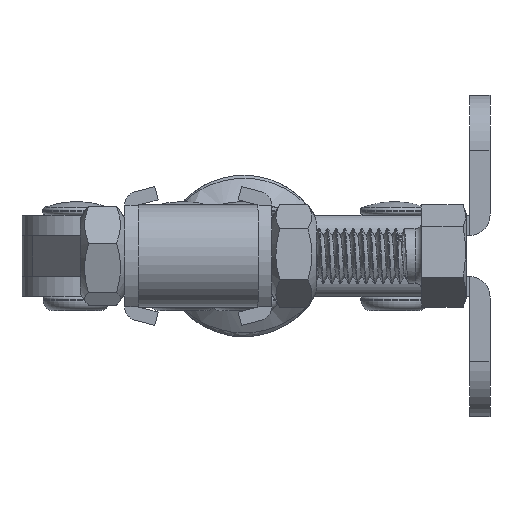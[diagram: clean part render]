
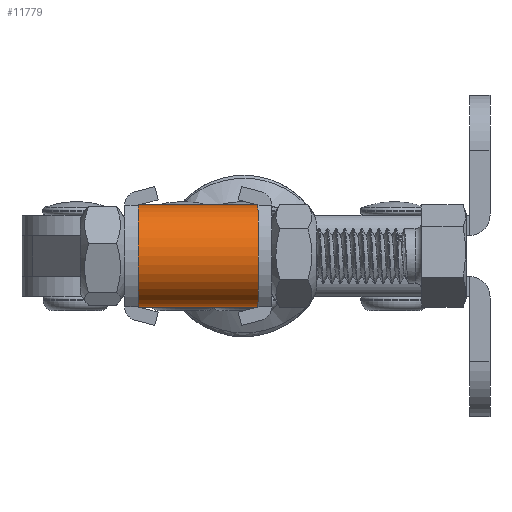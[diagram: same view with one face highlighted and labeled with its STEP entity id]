
A CAD part, left-side view. The second image highlights one B-rep face of the part: STEP entity #11779.
In plain terms, the highlighted cylindrical face has radius 7.5 mm (diameter 15 mm), a partial arc.
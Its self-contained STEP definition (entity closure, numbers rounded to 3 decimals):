
#1011=CYLINDRICAL_SURFACE('',#12833,7.5);
#1343=CIRCLE('',#12834,7.5);
#1344=CIRCLE('',#12835,7.5);
#1654=FACE_OUTER_BOUND('',#2344,.T.);
#2344=EDGE_LOOP('',(#9384,#9385,#9386,#9387));
#3103=LINE('',#42307,#4068);
#3178=LINE('',#43814,#4143);
#4068=VECTOR('',#14439,1000.);
#4143=VECTOR('',#14524,1000.);
#5177=VERTEX_POINT('',#42304);
#5178=VERTEX_POINT('',#42306);
#5363=VERTEX_POINT('',#43810);
#5364=VERTEX_POINT('',#43812);
#6629=EDGE_CURVE('',#5178,#5177,#3103,.T.);
#6819=EDGE_CURVE('',#5178,#5363,#1343,.T.);
#6820=EDGE_CURVE('',#5177,#5364,#1344,.T.);
#6821=EDGE_CURVE('',#5363,#5364,#3178,.T.);
#9384=ORIENTED_EDGE('',*,*,#6819,.F.);
#9385=ORIENTED_EDGE('',*,*,#6629,.T.);
#9386=ORIENTED_EDGE('',*,*,#6820,.T.);
#9387=ORIENTED_EDGE('',*,*,#6821,.F.);
#11779=ADVANCED_FACE('',(#1654),#1011,.T.);
#12833=AXIS2_PLACEMENT_3D('',#43809,#14518,#14519);
#12834=AXIS2_PLACEMENT_3D('',#43811,#14520,#14521);
#12835=AXIS2_PLACEMENT_3D('',#43813,#14522,#14523);
#14439=DIRECTION('',(0.,-1.,0.));
#14518=DIRECTION('center_axis',(0.,-1.,0.));
#14519=DIRECTION('ref_axis',(0.,0.,-1.));
#14520=DIRECTION('center_axis',(0.,1.,0.));
#14521=DIRECTION('ref_axis',(1.,0.,0.));
#14522=DIRECTION('center_axis',(0.,1.,0.));
#14523=DIRECTION('ref_axis',(0.,0.,1.));
#14524=DIRECTION('',(0.,-1.,0.));
#42304=CARTESIAN_POINT('',(-7.5,0.,15.));
#42306=CARTESIAN_POINT('',(-7.5,17.5,15.));
#42307=CARTESIAN_POINT('',(-7.5,34.5,15.));
#43809=CARTESIAN_POINT('Origin',(-7.5,34.5,7.5));
#43810=CARTESIAN_POINT('',(-7.5,17.5,0.));
#43811=CARTESIAN_POINT('Origin',(-7.5,17.5,7.5));
#43812=CARTESIAN_POINT('',(-7.5,0.,0.));
#43813=CARTESIAN_POINT('Origin',(-7.5,0.,7.5));
#43814=CARTESIAN_POINT('',(-7.5,34.5,0.));
